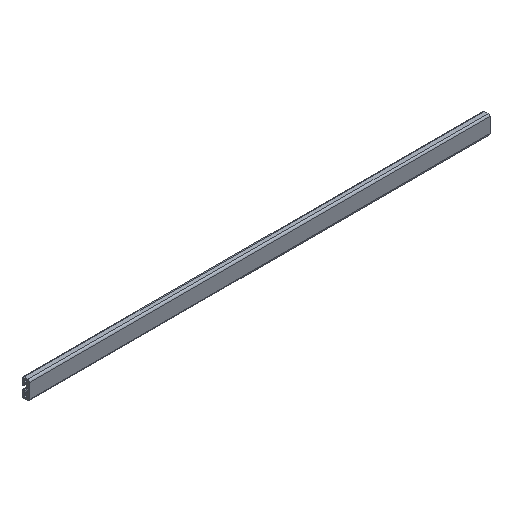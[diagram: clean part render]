
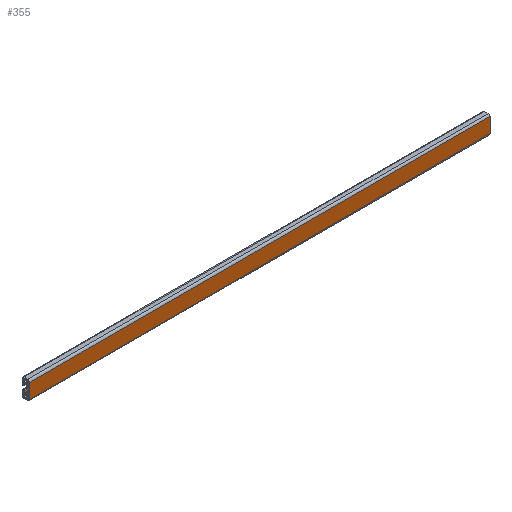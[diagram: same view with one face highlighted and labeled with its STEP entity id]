
A CAD part, isometric view. The second image highlights one B-rep face of the part: STEP entity #355.
In plain terms, the highlighted planar face has unit normal (0, -1, 0).
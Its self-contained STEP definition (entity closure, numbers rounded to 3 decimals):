
#4 = VECTOR ( 'NONE', #881, 1000. ) ;
#8 = LINE ( 'NONE', #871, #59 ) ;
#59 = VECTOR ( 'NONE', #575, 1000. ) ;
#88 = VERTEX_POINT ( 'NONE', #455 ) ;
#113 = CARTESIAN_POINT ( 'NONE',  ( 0., -8., -16. ) ) ;
#137 = ORIENTED_EDGE ( 'NONE', *, *, #568, .F. ) ;
#149 = DIRECTION ( 'NONE',  ( 0., 0., 1. ) ) ;
#155 = VERTEX_POINT ( 'NONE', #645 ) ;
#162 = EDGE_CURVE ( 'NONE', #167, #88, #679, .T. ) ;
#167 = VERTEX_POINT ( 'NONE', #876 ) ;
#244 = DIRECTION ( 'NONE',  ( 0., 0., -1. ) ) ;
#262 = AXIS2_PLACEMENT_3D ( 'NONE', #900, #985, #149 ) ;
#318 = CARTESIAN_POINT ( 'NONE',  ( 1000., -8., 16. ) ) ;
#345 = EDGE_LOOP ( 'NONE', ( #908, #137, #835, #419 ) ) ;
#355 = ADVANCED_FACE ( 'NONE', ( #691 ), #828, .F. ) ;
#401 = VECTOR ( 'NONE', #244, 1000. ) ;
#419 = ORIENTED_EDGE ( 'NONE', *, *, #610, .T. ) ;
#445 = VECTOR ( 'NONE', #464, 1000. ) ;
#455 = CARTESIAN_POINT ( 'NONE',  ( 1000., -8., -16. ) ) ;
#464 = DIRECTION ( 'NONE',  ( -1., 0., 0. ) ) ;
#524 = EDGE_CURVE ( 'NONE', #155, #870, #891, .T. ) ;
#568 = EDGE_CURVE ( 'NONE', #88, #870, #8, .T. ) ;
#575 = DIRECTION ( 'NONE',  ( -1., 0., 0. ) ) ;
#610 = EDGE_CURVE ( 'NONE', #167, #155, #644, .T. ) ;
#644 = LINE ( 'NONE', #749, #445 ) ;
#645 = CARTESIAN_POINT ( 'NONE',  ( 0., -8., 16. ) ) ;
#679 = LINE ( 'NONE', #318, #4 ) ;
#691 = FACE_OUTER_BOUND ( 'NONE', #345, .T. ) ;
#749 = CARTESIAN_POINT ( 'NONE',  ( 1000., -8., 16. ) ) ;
#828 = PLANE ( 'NONE',  #262 ) ;
#835 = ORIENTED_EDGE ( 'NONE', *, *, #162, .F. ) ;
#870 = VERTEX_POINT ( 'NONE', #113 ) ;
#871 = CARTESIAN_POINT ( 'NONE',  ( 1000., -8., -16. ) ) ;
#876 = CARTESIAN_POINT ( 'NONE',  ( 1000., -8., 16. ) ) ;
#881 = DIRECTION ( 'NONE',  ( 0., 0., -1. ) ) ;
#891 = LINE ( 'NONE', #1002, #401 ) ;
#900 = CARTESIAN_POINT ( 'NONE',  ( 1000., -8., 16. ) ) ;
#908 = ORIENTED_EDGE ( 'NONE', *, *, #524, .T. ) ;
#985 = DIRECTION ( 'NONE',  ( 0., 1., 0. ) ) ;
#1002 = CARTESIAN_POINT ( 'NONE',  ( 0., -8., 16. ) ) ;
